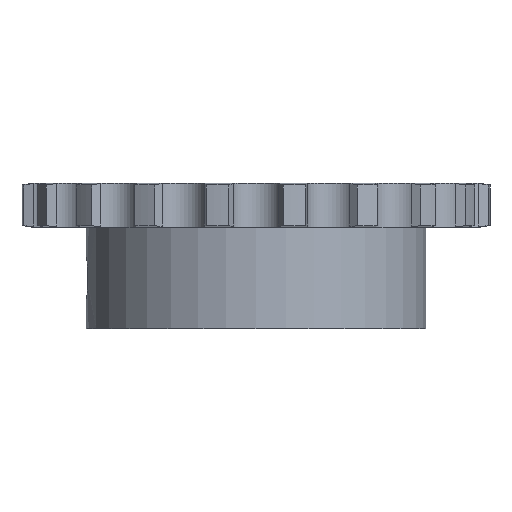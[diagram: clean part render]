
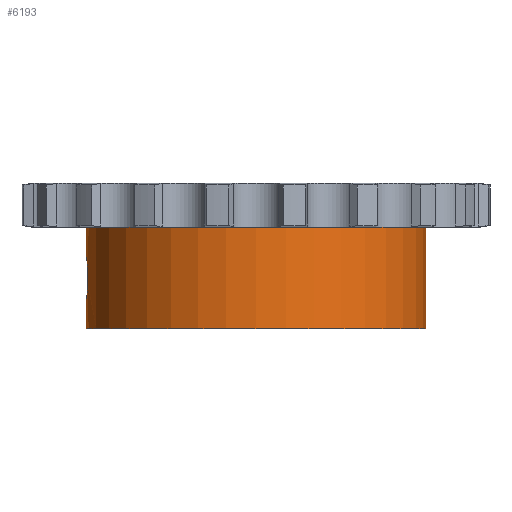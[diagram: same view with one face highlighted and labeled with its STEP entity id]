
A CAD part, front view. The second image highlights one B-rep face of the part: STEP entity #6193.
In plain terms, the highlighted cylindrical face has radius 35 mm (diameter 70 mm), a partial arc.
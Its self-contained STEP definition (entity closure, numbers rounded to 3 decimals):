
#1287=CARTESIAN_POINT('',(0.,0.,-4.55));
#1288=DIRECTION('',(0.,0.,1.));
#1289=DIRECTION('',(-1.,0.,0.));
#1290=AXIS2_PLACEMENT_3D('',#1287,#1288,#1289);
#3033=CARTESIAN_POINT('',(-35.,0.,
-10.));
#3057=DIRECTION('',(0.,0.,1.));
#3058=VECTOR('',#3057,20.9);
#3059=CARTESIAN_POINT('',(35.,0.,-25.45));
#3060=LINE('',#3059,#3058);
#3183=CARTESIAN_POINT('',(0.,0.,-25.45));
#3184=DIRECTION('',(0.,0.,-1.));
#3185=DIRECTION('',(1.,0.,0.));
#3186=AXIS2_PLACEMENT_3D('',#3183,#3184,#3185);
#3212=CARTESIAN_POINT('',(-35.,0.,
-10.));
#3213=CARTESIAN_POINT('',(-35.,-0.201,
-10.));
#3214=CARTESIAN_POINT('',(-34.996,-0.634,
-10.025));
#3215=CARTESIAN_POINT('',(-34.978,-1.291,
-10.146));
#3216=CARTESIAN_POINT('',(-34.947,-1.955,-10.363));
#3217=CARTESIAN_POINT('',(-34.907,-2.58,
-10.666));
#3218=CARTESIAN_POINT('',(-34.859,-3.156,
-11.048));
#3219=CARTESIAN_POINT('',(-34.808,-3.671,
-11.5));
#3220=CARTESIAN_POINT('',(-34.758,-4.118,
-12.015));
#3221=CARTESIAN_POINT('',(-34.711,-4.491,
-12.583));
#3222=CARTESIAN_POINT('',(-34.672,-4.781,
-13.194));
#3223=CARTESIAN_POINT('',(-34.643,-4.984,
-13.833));
#3224=CARTESIAN_POINT('',(-34.628,-5.089,
-14.44));
#3225=CARTESIAN_POINT('',(-34.625,-5.11,
-14.829));
#3226=CARTESIAN_POINT('',(-34.625,-5.11,
-15.));
#3231=DIRECTION('',(0.,0.,1.));
#3232=VECTOR('',#3231,5.45);
#3233=CARTESIAN_POINT('',(-35.,0.,
-10.));
#3234=LINE('',#3233,#3232);
#3238=DIRECTION('',(0.,0.,1.));
#3239=VECTOR('',#3238,5.45);
#3240=CARTESIAN_POINT('',(-35.,0.,-25.45));
#3241=LINE('',#3240,#3239);
#3245=CARTESIAN_POINT('',(-34.625,-5.11,
-15.));
#3246=CARTESIAN_POINT('',(-34.625,-5.11,
-15.182));
#3247=CARTESIAN_POINT('',(-34.628,-5.087,
-15.582));
#3248=CARTESIAN_POINT('',(-34.645,-4.976,
-16.198));
#3249=CARTESIAN_POINT('',(-34.674,-4.77,
-16.832));
#3250=CARTESIAN_POINT('',(-34.713,-4.478,
-17.439));
#3251=CARTESIAN_POINT('',(-34.759,-4.104,
-18.003));
#3252=CARTESIAN_POINT('',(-34.81,-3.657,
-18.513));
#3253=CARTESIAN_POINT('',(-34.86,-3.142,
-18.962));
#3254=CARTESIAN_POINT('',(-34.907,-2.569,
-19.34));
#3255=CARTESIAN_POINT('',(-34.948,-1.946,
-19.64));
#3256=CARTESIAN_POINT('',(-34.979,-1.285,
-19.855));
#3257=CARTESIAN_POINT('',(-34.996,-0.631,
-19.975));
#3258=CARTESIAN_POINT('',(-35.,-0.2,
-20.));
#3259=CARTESIAN_POINT('',(-35.,0.,
-20.));
#3627=CARTESIAN_POINT('',(-35.,0.,-25.45));
#3628=CARTESIAN_POINT('',(35.,0.,-25.45));
#3629=VERTEX_POINT('',#3627);
#3630=VERTEX_POINT('',#3628);
#3631=CARTESIAN_POINT('',(35.,0.,-4.55));
#3632=VERTEX_POINT('',#3631);
#3633=CARTESIAN_POINT('',(-35.,0.,-4.55));
#3634=VERTEX_POINT('',#3633);
#3834=VERTEX_POINT('',#3033);
#3837=VERTEX_POINT('',#3226);
#3839=VERTEX_POINT('',#3259);
#6177=CARTESIAN_POINT('',(0.,0.,4.55));
#6178=DIRECTION('',(0.,0.,1.));
#6179=DIRECTION('',(1.,0.,0.));
#6180=AXIS2_PLACEMENT_3D('',#6177,#6178,#6179);
#6181=CYLINDRICAL_SURFACE('',#6180,35.);
#6183=ORIENTED_EDGE('',*,*,#6182,.F.);
#6184=ORIENTED_EDGE('',*,*,#5855,.T.);
#6185=ORIENTED_EDGE('',*,*,#5162,.T.);
#6186=ORIENTED_EDGE('',*,*,#5852,.F.);
#6187=ORIENTED_EDGE('',*,*,#6163,.T.);
#6188=ORIENTED_EDGE('',*,*,#5848,.T.);
#6190=ORIENTED_EDGE('',*,*,#6189,.F.);
#6191=EDGE_LOOP('',(#6183,#6184,#6185,#6186,#6187,#6188,#6190));
#6192=FACE_OUTER_BOUND('',#6191,.F.);
#6193=ADVANCED_FACE('',(#6192),#6181,.T.);
#1291=CIRCLE('',#1290,35.);
#3187=CIRCLE('',#3186,35.);
#3227=B_SPLINE_CURVE_WITH_KNOTS('',3,(#3212,#3213,#3214,#3215,#3216,#3217,#3218,
#3219,#3220,#3221,#3222,#3223,#3224,#3225,#3226),.UNSPECIFIED.,.F.,.F.,(4,1,1,1,
1,1,1,1,1,1,1,1,4),(0.,0.076,0.161,0.247,
0.332,0.418,0.504,0.589,
0.675,0.76,0.846,0.932,1.),
.UNSPECIFIED.);
#3260=B_SPLINE_CURVE_WITH_KNOTS('',3,(#3245,#3246,#3247,#3248,#3249,#3250,#3251,
#3252,#3253,#3254,#3255,#3256,#3257,#3258,#3259),.UNSPECIFIED.,.F.,.F.,(4,1,1,1,
1,1,1,1,1,1,1,1,4),(0.,0.073,0.158,0.243,
0.329,0.414,0.499,0.584,
0.669,0.755,0.84,0.925,1.),
.UNSPECIFIED.);
#5162=EDGE_CURVE('',#3634,#3632,#1291,.T.);
#5848=EDGE_CURVE('',#3629,#3839,#3241,.T.);
#5852=EDGE_CURVE('',#3630,#3632,#3060,.T.);
#5855=EDGE_CURVE('',#3834,#3634,#3234,.T.);
#6163=EDGE_CURVE('',#3630,#3629,#3187,.T.);
#6182=EDGE_CURVE('',#3834,#3837,#3227,.T.);
#6189=EDGE_CURVE('',#3837,#3839,#3260,.T.);
